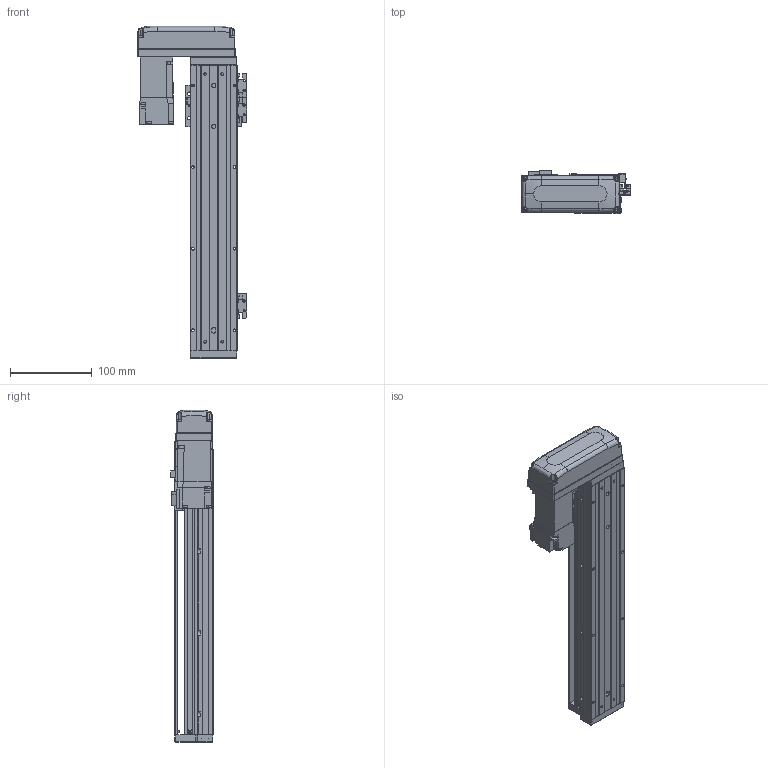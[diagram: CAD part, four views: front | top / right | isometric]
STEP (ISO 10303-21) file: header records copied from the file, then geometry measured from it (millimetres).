
FILE_DESCRIPTION (( 'STEP AP203' ), '1' );
FILE_NAME ('KTHA50-250-BR-M10-C4L.step', '2022-03-19T07:14:58', ( '微软用户' ), ( '微软中国' ), 'SwSTEP 2.0', 'SolidWorks 2020', '' );
FILE_SCHEMA (( 'CONFIG_CONTROL_DESIGN' ));
Length unit declared in the file: millimetre
Products named in the file (18): CTHA60-016; KTHA50-250-BR-M10-C4L; GB¨uT 70.2-M3¡Á6_M3¡Á6; CTHA60-021; EE_SX911P_R; GBT 70.3-M3℅6; GBT77-2000 M3×3; HG-KR13（三菱）; KTHA50-001_350; GBT 70.1-M3℅6; CTHA50-015-2_CTHA60-015-2; KTHA50-002; CTHA60-017; CTHA60-033; KTHA50-004; GBT 70.1-M4×12; GBT 70.1-M3×15; KTHA50-005
Assembly tree (53 placements, depth 2):
  KTHA50-250-BR-M10-C4L
    KTHA50-001_350
    KTHA50-002
    KTHA50-004
    KTHA50-005
    GB¨uT 70.2-M3¡Á6_M3¡Á6  x6
    EE_SX911P_R  x3
    GBT77-2000 M3×3  x6
    GBT 70.1-M3℅6  x6
    CTHA60-017  x3
    GBT 70.1-M4×12  x10
    CTHA60-016  x2
    CTHA60-021  x2
    GBT 70.3-M3℅6  x4
    HG-KR13（三菱）
    CTHA50-015-2_CTHA60-015-2
    CTHA60-033
    GBT 70.1-M3×15  x4
Bounding box: 133.82 x 52.3 x 407 mm (x, y, z)
Volume: 949326.4 mm3; surface area: 233793.5 mm2
Topology: 56 solids, 56 shells, 2223 faces, 5239 edges, 3208 vertices
Faces by surface type: plane 1240, cylinder 538, cone 303, torus 100, bspline 26, sphere 16
Entity records: 36943 total; most frequent: CARTESIAN_POINT 7010, DIRECTION 5745, ORIENTED_EDGE 5490, EDGE_CURVE 2745, AXIS2_PLACEMENT_3D 1959, VECTOR 1827, LINE 1827, VERTEX_POINT 1722
